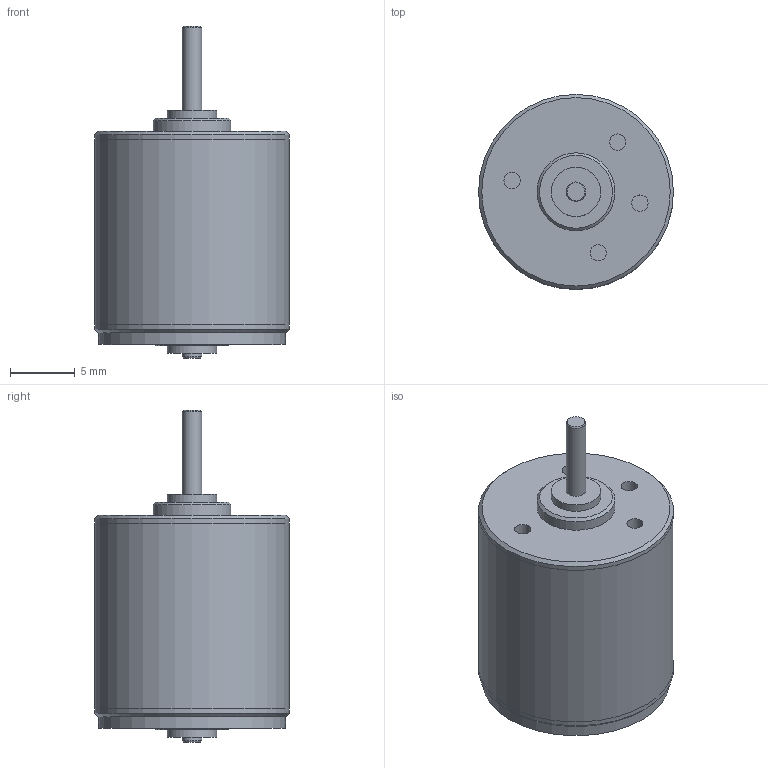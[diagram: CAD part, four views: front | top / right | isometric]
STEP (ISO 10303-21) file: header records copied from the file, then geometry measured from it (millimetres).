
FILE_DESCRIPTION(/* description */ (''),/* implementation_level */ '2;1');
FILE_NAME(/* name */ 'AM1524_55.stp',/* time_stamp */ '2018-11-28T08:07:20+01:00',/* author */ ('DR. FRITZ FAULHABER GmbH & Co. KG'),/* organization */ ('DR. FRITZ FAULHABER GmbH & Co. KG'),/* preprocessor_version */ 'ST-DEVELOPER v16.7',/* originating_system */ 'SIEMENS PLM Software NX 12.0',/* authorisation */ '');
FILE_SCHEMA (('AUTOMOTIVE_DESIGN { 1 0 10303 214 3 1 1 1 }'));
Length unit declared in the file: millimetre
Products named in the file (1): Alle_Motoren
Bounding box: 15 x 15 x 25.55 mm (x, y, z)
Volume: 2930.1 mm3; surface area: 1232.1 mm2
Topology: 1 solids, 1 shells, 123 faces, 263 edges, 174 vertices
Faces by surface type: plane 85, cylinder 21, extrusion 11, cone 6
Full cylindrical faces by diameter (mm): 1.25 x4, 1.5 x2, 2 x4, 3.8 x2, 6 x2, 6.2 x1, 14.4 x1, 14.999 x2, 15 x3
Entity records: 3614 total; most frequent: CARTESIAN_POINT 959, ORIENTED_EDGE 468, DIRECTION 427, EDGE_CURVE 234, EDGE_LOOP 182, VERTEX_POINT 172, AXIS2_PLACEMENT_3D 161, ADVANCED_FACE 123
